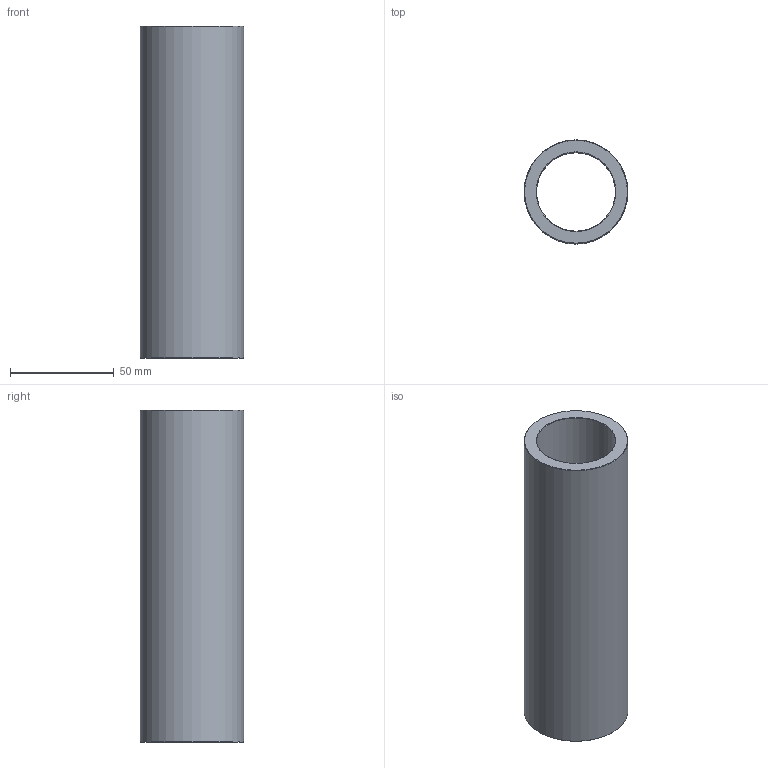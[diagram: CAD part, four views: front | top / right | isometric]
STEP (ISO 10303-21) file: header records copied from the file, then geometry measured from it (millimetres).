
FILE_DESCRIPTION(('STEP AP203'),'1');
FILE_NAME('C:/Users/Rodrigo/Desktop/GA6.038.160-1.step','2016-11-07T18:23:01',(' '),(' '),'Spatial InterOp 3D',' ',' ');
FILE_SCHEMA(('CONFIG_CONTROL_DESIGN'));
Length unit declared in the file: millimetre
Products named in the file (1): 1
Bounding box: 50 x 50 x 160 mm (x, y, z)
Volume: 132689.8 mm3; surface area: 45827.6 mm2
Topology: 1 solids, 1 shells, 8 faces, 14 edges, 8 vertices
Faces by surface type: cone 4, cylinder 2, plane 2
Full cylindrical faces by diameter (mm): 38 x1, 50 x1
Entity records: 212 total; most frequent: DIRECTION 34, CARTESIAN_POINT 25, AXIS2_PLACEMENT_3D 17, EDGE_LOOP 16, ORIENTED_EDGE 16, FACE_OUTER_BOUND 10, ADVANCED_FACE 8, EDGE_CURVE 8
